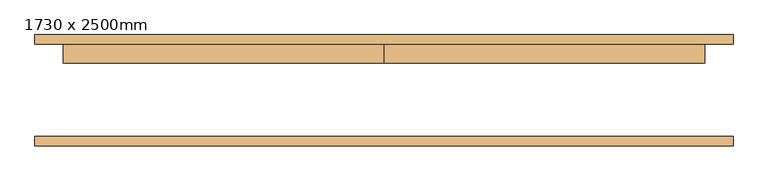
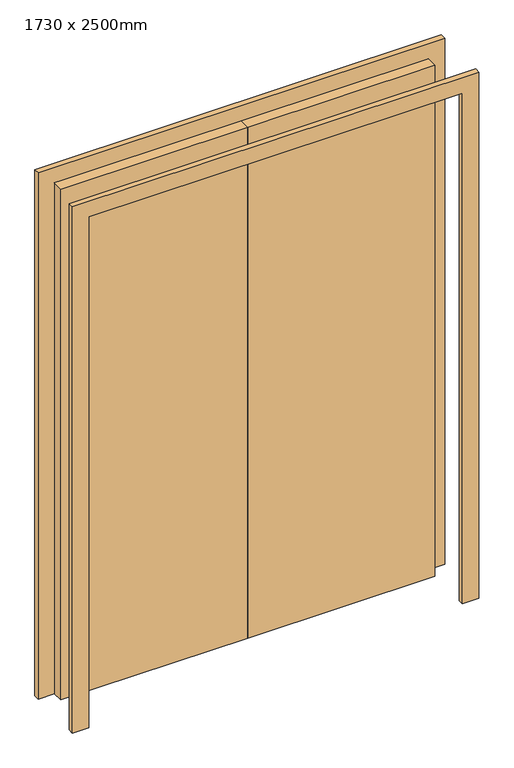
"""IFC4 building model written with IfcOpenShell, lengths in millimetres: door geometry, Puerta atamborada de 2 hojas : 1730 x 2500mm."""

import ifcopenshell
import ifcopenshell.guid

model = None  # the IFC model being written
_history = None  # IfcOwnerHistory: only IFC2X3 demands one
_inside = {}  # id of a spatial element -> (the spatial element, [elements in it])
_under = {}  # id of a project, library or spatial element -> (it, [spatial elements below it])
_declared = {}  # id of a project -> (the project, [libraries it declares])
_typed = {}  # id of a type object -> (the type object, [elements of that type])
_made_of = {}  # id of a material, layer set ... -> (it, [elements and type objects made of it])


def new_model(schema):
    """Start an empty IFC model of exactly this schema.

    Asked for "IFC4X3", IfcOpenShell would pick the latest addendum, in which some entities
    have other attributes; the version numbers below select the first issue.
    IFC2X3 requires an IfcOwnerHistory on every rooted entity: one is made here for all.
    """
    global model, _history
    if schema == "IFC4X3":
        model = ifcopenshell.file(schema_version=(4, 3, 0, 0))
    else:
        model = ifcopenshell.file(schema=schema)
    _inside.clear()
    _under.clear()
    _declared.clear()
    _typed.clear()
    _made_of.clear()
    _history = None
    if model.schema == "IFC2X3":
        org = make("IfcOrganization", Name="unknown")
        user = make(
            "IfcPersonAndOrganization",
            ThePerson=make("IfcPerson", FamilyName="unknown"),
            TheOrganization=org,
        )
        app = make(
            "IfcApplication",
            ApplicationDeveloper=org,
            Version="unknown",
            ApplicationFullName="unknown",
            ApplicationIdentifier="unknown",
        )
        _history = make(
            "IfcOwnerHistory",
            OwningUser=user,
            OwningApplication=app,
            ChangeAction="ADDED",
            CreationDate=0,
        )
    return model


def make(cls, **values):
    """One entity of the class cls with the attributes given. An attribute that is None is left unset."""
    return model.create_entity(
        cls, **{name: value for name, value in values.items() if value is not None}
    )


def rooted(cls, **values):
    """An entity with a GlobalId (a new one), such as an element, a storey or a relation."""
    return make(cls, GlobalId=ifcopenshell.guid.new(), OwnerHistory=_history, **values)


def si_unit(unit_type, name, prefix=None):
    """IfcSIUnit, for example si_unit("LENGTHUNIT", "METRE", prefix="MILLI")."""
    return make("IfcSIUnit", UnitType=unit_type, Prefix=prefix, Name=name)


def assignment(units):
    """IfcUnitAssignment: the units of a project."""
    return None if units is None else make("IfcUnitAssignment", Units=units)


def point(xyz):
    """IfcCartesianPoint."""
    return None if xyz is None else make("IfcCartesianPoint", Coordinates=xyz)


def direction(xyz):
    """IfcDirection."""
    return None if xyz is None else make("IfcDirection", DirectionRatios=xyz)


def frame(location, z_axis=None, x_axis=None):
    """IfcAxis2Placement3D, a coordinate frame: its origin and axes. An axis left out is left unset."""
    return make(
        "IfcAxis2Placement3D",
        Location=point(location),
        Axis=direction(z_axis),
        RefDirection=direction(x_axis),
    )


def origin():
    """The frame at (0, 0, 0) with its axes left unset."""
    return frame((0.0, 0.0, 0.0))


def origin_with_axes():
    """The frame at (0, 0, 0) with the z axis (0, 0, 1) and the x axis (1, 0, 0) written out."""
    return frame((0.0, 0.0, 0.0), z_axis=(0.0, 0.0, 1.0), x_axis=(1.0, 0.0, 0.0))


def place(relative_to, where):
    """IfcLocalPlacement: puts the frame where relative to a parent placement (None: the world)."""
    return make(
        "IfcLocalPlacement", PlacementRelTo=relative_to, RelativePlacement=where
    )


def context(
    kind, dimensions, precision=None, world=None, true_north=None, identifier=None
):
    """IfcGeometricRepresentationContext, for example the 3D "Model" context."""
    return make(
        "IfcGeometricRepresentationContext",
        ContextIdentifier=identifier,
        ContextType=kind,
        CoordinateSpaceDimension=dimensions,
        Precision=precision,
        WorldCoordinateSystem=world,
        TrueNorth=true_north,
    )


def project(units=None, contexts=None):
    """IfcProject with its units and contexts."""
    return rooted(
        "IfcProject",
        Name="project",
        RepresentationContexts=contexts,
        UnitsInContext=assignment(units),
    )


def spatial(cls, under=None, at=None, **own):
    """A site, building, storey or space (cls), placed at a placement, below another one or the project."""
    s = rooted(cls, ObjectPlacement=at, **own)
    if under is not None:
        _under.setdefault(under.id(), (under, []))[1].append(s)
    return s


def polyline(points):
    """IfcPolyline through the points."""
    return make("IfcPolyline", Points=[point(p) for p in points])


def outline(outer, holes=None, kind="AREA"):
    """IfcArbitraryClosedProfileDef: a profile drawn as a closed curve; with holes, ...WithVoids."""
    if holes is None:
        return make("IfcArbitraryClosedProfileDef", ProfileType=kind, OuterCurve=outer)
    return make(
        "IfcArbitraryProfileDefWithVoids",
        ProfileType=kind,
        OuterCurve=outer,
        InnerCurves=holes,
    )


def extrude(swept, where, along, depth):
    """IfcExtrudedAreaSolid: the profile swept, set in the frame where, extruded along a direction by depth."""
    return make(
        "IfcExtrudedAreaSolid",
        SweptArea=swept,
        Position=where,
        ExtrudedDirection=direction(along),
        Depth=depth,
    )


def shape(context_of_items, identifier, shape_type, items):
    """IfcShapeRepresentation: the items that make up one representation, for example the "Body"."""
    return make(
        "IfcShapeRepresentation",
        ContextOfItems=context_of_items,
        RepresentationIdentifier=identifier,
        RepresentationType=shape_type,
        Items=items,
    )


def source(mapping_origin, context_of_items, identifier, shape_type, items):
    """IfcRepresentationMap: a shape defined once, which mapped items show again and again."""
    return make(
        "IfcRepresentationMap",
        MappingOrigin=mapping_origin,
        MappedRepresentation=shape(context_of_items, identifier, shape_type, items),
    )


def transform(
    local_origin,
    x_axis=None,
    y_axis=None,
    z_axis=None,
    scale=None,
    scale2=None,
    scale3=None,
    uniform=True,
):
    """IfcCartesianTransformationOperator3D, or its non-uniform kind. x_axis, y_axis, z_axis: its Axis1, 2, 3."""
    if uniform:
        return make(
            "IfcCartesianTransformationOperator3D",
            Axis1=direction(x_axis),
            Axis2=direction(y_axis),
            LocalOrigin=point(local_origin),
            Scale=scale,
            Axis3=direction(z_axis),
        )
    return make(
        "IfcCartesianTransformationOperator3DnonUniform",
        Axis1=direction(x_axis),
        Axis2=direction(y_axis),
        LocalOrigin=point(local_origin),
        Scale=scale,
        Axis3=direction(z_axis),
        Scale2=scale2,
        Scale3=scale3,
    )


def mapped(mapping_source, mapping_target):
    """IfcMappedItem: shows the shape of a source again, moved by a transform."""
    return make(
        "IfcMappedItem", MappingSource=mapping_source, MappingTarget=mapping_target
    )


def made_of(thing, what):
    """Note that an element or type object is made of a material, layer set ...; save() writes the relation."""
    if what is not None:
        _made_of.setdefault(what.id(), (what, []))[1].append(thing)
    return thing


def element(
    cls,
    number,
    at=None,
    inside=None,
    cuts=None,
    type_object=None,
    material=None,
    context=None,
    identifier="Body",
    shape_type=None,
    held_by="IfcProductDefinitionShape",
    body=None,
    shapes=None,
    **own,
):
    """One element of the class cls, such as IfcWall. Its Tag is "e" and its number.

    at: its placement. inside: the storey or other place that contains it. cuts: it is an
    opening in that element (IfcRelVoidsElement). A single representation is given by context,
    identifier, shape_type and body (its items); several are given by shapes. held_by: the class
    of the entity that holds the representations. save() writes the other relations.
    """
    e = rooted(cls, Tag="e%d" % number, ObjectPlacement=at, **own)
    if body is not None:
        shapes = [shape(context, identifier, shape_type, body)]
    if shapes is not None:
        e.Representation = make(held_by, Representations=shapes)
    if inside is not None:
        _inside.setdefault(inside.id(), (inside, []))[1].append(e)
    if cuts is not None:
        rooted(
            "IfcRelVoidsElement", RelatingBuildingElement=cuts, RelatedOpeningElement=e
        )
    if type_object is not None:
        _typed.setdefault(type_object.id(), (type_object, []))[1].append(e)
    return made_of(e, material)


def aggregate(whole, parts):
    """IfcRelAggregates: a whole, such as a stair, and the parts it consists of."""
    return rooted("IfcRelAggregates", RelatingObject=whole, RelatedObjects=parts)


def save(model, path):
    """Write the relations noted so far, then the file.

    IfcRelAggregates (storeys below a building ...), IfcRelContainedInSpatialStructure (elements
    in a storey), IfcRelDefinesByType, IfcRelAssociatesMaterial and IfcRelDeclares: one each for
    every whole, place, type object, material and project.
    """
    for whole, parts in _under.values():
        aggregate(whole, parts)
    for where, things in _inside.values():
        rooted(
            "IfcRelContainedInSpatialStructure",
            RelatedElements=things,
            RelatingStructure=where,
        )
    for kind, things in _typed.values():
        rooted("IfcRelDefinesByType", RelatedObjects=things, RelatingType=kind)
    for what, things in _made_of.values():
        rooted("IfcRelAssociatesMaterial", RelatedObjects=things, RelatingMaterial=what)
    for by, libraries in _declared.values():
        rooted("IfcRelDeclares", RelatingContext=by, RelatedDefinitions=libraries)
    model.write(path)


def door_1730_x_2500mm_2afba01b(model_context):
    return source(origin(), model_context, "Body", "SweptSolid", [
        extrude(outline(polyline([(0.0, 125.0), (865.0, 125.0), (865.0, 74.0), (0.0, 74.0), (0.0, 125.0)])), origin_with_axes(), (0.0, 0.0, 1.0), 2500.0),
        extrude(outline(polyline([(-865.0, 125.0), (0.0, 125.0), (0.0, 74.0), (-865.0, 74.0), (-865.0, 125.0)])), origin_with_axes(), (0.0, 0.0, 1.0), 2500.0),
        extrude(outline(polyline([(2500.0, -865.0), (2500.0, 865.0), (0.0, 865.0), (0.0, 941.0), (2576.0, 941.0), (2576.0, -941.0), (0.0, -941.0), (0.0, -865.0), (2500.0, -865.0)])), frame((0.0, -150.0, 0.0), z_axis=(0.0, 1.0, 0.0), x_axis=(0.0, 0.0, 1.0)), (0.0, 0.0, 1.0), 25.0),
        extrude(outline(polyline([(2500.0, -865.0), (2500.0, 865.0), (0.0, 865.0), (0.0, 941.0), (2576.0, 941.0), (2576.0, -941.0), (0.0, -941.0), (0.0, -865.0), (2500.0, -865.0)])), frame((0.0, 125.0, 0.0), z_axis=(0.0, 1.0, 0.0), x_axis=(0.0, 0.0, 1.0)), (0.0, 0.0, 1.0), 25.0),
    ])


if __name__ == "__main__":
    model = new_model("IFC4")
    model_context = context("Model", 3, world=origin())
    ifc_project = project(units=[si_unit("LENGTHUNIT", "METRE", prefix="MILLI")], contexts=[model_context])
    site = spatial("IfcSite", under=ifc_project)
    building = spatial("IfcBuilding", under=site)
    placement = place(None, origin())
    door_1730_x_2500mm_shape = door_1730_x_2500mm_2afba01b(model_context)
    element("IfcDoor", 1, ObjectType="Puerta atamborada de 2 hojas : 1730 x 2500mm", at=placement, inside=building, context=model_context, shape_type="MappedRepresentation", body=[
        mapped(door_1730_x_2500mm_shape, transform((0.0, 0.0, 0.0), x_axis=(1.0, 0.0, 0.0), y_axis=(0.0, 1.0, 0.0), z_axis=(0.0, 0.0, 1.0))),
    ])
    save(model, "model.ifc")
